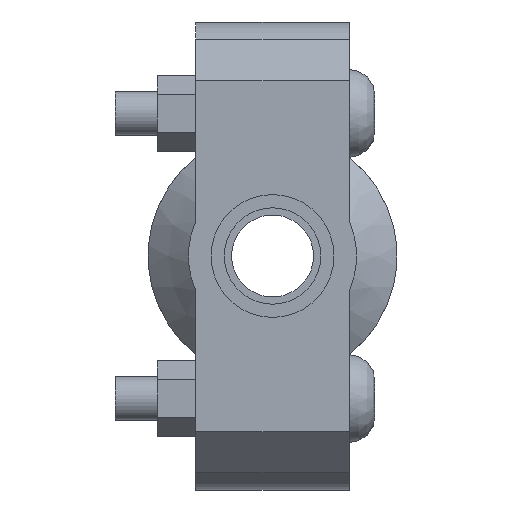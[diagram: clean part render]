
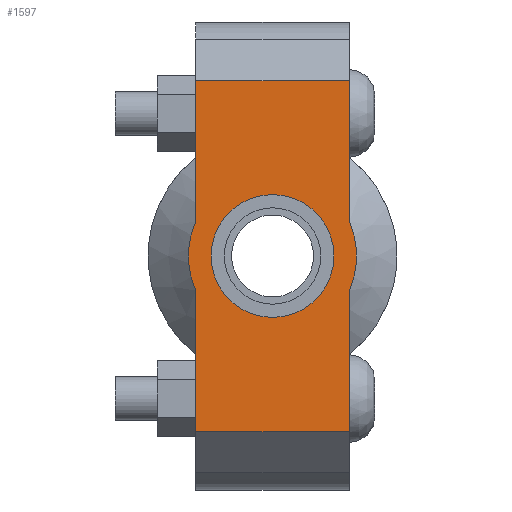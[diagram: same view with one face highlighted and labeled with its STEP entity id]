
A CAD part, left-side view. The second image highlights one B-rep face of the part: STEP entity #1597.
In plain terms, the highlighted planar face has unit normal (-1, 0, 0) as drawn and (0, 0, 1) by its records, which use the part's own axes.
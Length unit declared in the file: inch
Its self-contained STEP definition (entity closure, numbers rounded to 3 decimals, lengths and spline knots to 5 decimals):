
#152=LINE('',#2761,#249);
#167=LINE('',#2820,#264);
#175=LINE('',#2850,#272);
#177=LINE('',#2853,#274);
#178=LINE('',#2858,#275);
#179=LINE('',#2859,#276);
#249=VECTOR('',#2249,0.3937);
#264=VECTOR('',#2284,0.3937);
#272=VECTOR('',#2304,0.3937);
#274=VECTOR('',#2308,0.3937);
#275=VECTOR('',#2313,0.3937);
#276=VECTOR('',#2314,0.3937);
#340=FACE_BOUND('',#517,.T.);
#408=FACE_OUTER_BOUND('',#516,.T.);
#516=EDGE_LOOP('',(#1298,#1299,#1300,#1301,#1302,#1303,#1304,#1305));
#517=EDGE_LOOP('',(#1306));
#599=CIRCLE('',#1825,0.525);
#623=CIRCLE('',#1877,0.719);
#624=CIRCLE('',#1878,0.719);
#695=VERTEX_POINT('',#2587);
#736=VERTEX_POINT('',#2758);
#737=VERTEX_POINT('',#2760);
#758=VERTEX_POINT('',#2815);
#759=VERTEX_POINT('',#2819);
#768=VERTEX_POINT('',#2845);
#769=VERTEX_POINT('',#2849);
#770=VERTEX_POINT('',#2855);
#771=VERTEX_POINT('',#2857);
#859=EDGE_CURVE('',#695,#695,#599,.T.);
#916=EDGE_CURVE('',#737,#736,#152,.T.);
#941=EDGE_CURVE('',#759,#758,#167,.T.);
#954=EDGE_CURVE('',#769,#768,#175,.T.);
#956=EDGE_CURVE('',#769,#736,#177,.T.);
#957=EDGE_CURVE('',#768,#770,#623,.T.);
#958=EDGE_CURVE('',#770,#771,#178,.T.);
#959=EDGE_CURVE('',#759,#771,#179,.T.);
#960=EDGE_CURVE('',#758,#737,#624,.T.);
#1298=ORIENTED_EDGE('',*,*,#956,.F.);
#1299=ORIENTED_EDGE('',*,*,#954,.T.);
#1300=ORIENTED_EDGE('',*,*,#957,.T.);
#1301=ORIENTED_EDGE('',*,*,#958,.T.);
#1302=ORIENTED_EDGE('',*,*,#959,.F.);
#1303=ORIENTED_EDGE('',*,*,#941,.T.);
#1304=ORIENTED_EDGE('',*,*,#960,.T.);
#1305=ORIENTED_EDGE('',*,*,#916,.T.);
#1306=ORIENTED_EDGE('',*,*,#859,.T.);
#1437=PLANE('',#1876);
#1597=ADVANCED_FACE('',(#408,#340),#1437,.T.);
#1825=AXIS2_PLACEMENT_3D('',#2589,#2139,#2140);
#1876=AXIS2_PLACEMENT_3D('',#2854,#2309,#2310);
#1877=AXIS2_PLACEMENT_3D('',#2856,#2311,#2312);
#1878=AXIS2_PLACEMENT_3D('',#2860,#2315,#2316);
#2139=DIRECTION('center_axis',(0.,0.,-1.));
#2140=DIRECTION('ref_axis',(-1.,0.,0.));
#2249=DIRECTION('',(-1.,0.,0.));
#2284=DIRECTION('',(-1.,0.,0.));
#2304=DIRECTION('',(1.,0.,0.));
#2308=DIRECTION('',(0.,1.,0.));
#2309=DIRECTION('center_axis',(0.,0.,1.));
#2310=DIRECTION('ref_axis',(1.,0.,0.));
#2311=DIRECTION('center_axis',(0.,0.,1.));
#2312=DIRECTION('ref_axis',(-1.,0.,0.));
#2313=DIRECTION('',(1.,0.,0.));
#2314=DIRECTION('',(0.,-1.,0.));
#2315=DIRECTION('center_axis',(0.,0.,1.));
#2316=DIRECTION('ref_axis',(-1.,0.,0.));
#2587=CARTESIAN_POINT('',(0.525,0.,0.875));
#2589=CARTESIAN_POINT('Origin',(0.,0.,0.875));
#2758=CARTESIAN_POINT('',(-1.5,0.656,0.875));
#2760=CARTESIAN_POINT('',(-0.29432,0.656,0.875));
#2761=CARTESIAN_POINT('',(2.,0.656,0.875));
#2815=CARTESIAN_POINT('',(0.29432,0.656,0.875));
#2819=CARTESIAN_POINT('',(1.5,0.656,0.875));
#2820=CARTESIAN_POINT('',(2.,0.656,0.875));
#2845=CARTESIAN_POINT('',(-0.29432,-0.656,0.875));
#2849=CARTESIAN_POINT('',(-1.5,-0.656,0.875));
#2850=CARTESIAN_POINT('',(-2.,-0.656,0.875));
#2853=CARTESIAN_POINT('',(-1.5,0.328,0.875));
#2854=CARTESIAN_POINT('Origin',(0.,0.,
0.875));
#2855=CARTESIAN_POINT('',(0.29432,-0.656,0.875));
#2856=CARTESIAN_POINT('Origin',(0.,0.,0.875));
#2857=CARTESIAN_POINT('',(1.5,-0.656,0.875));
#2858=CARTESIAN_POINT('',(-2.,-0.656,0.875));
#2859=CARTESIAN_POINT('',(1.5,-0.328,0.875));
#2860=CARTESIAN_POINT('Origin',(0.,0.,0.875));
